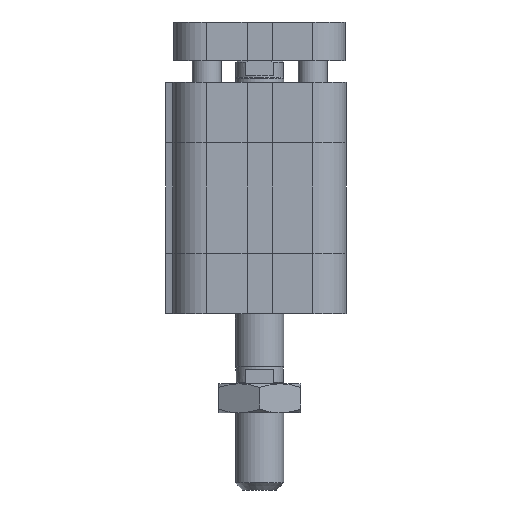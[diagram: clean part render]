
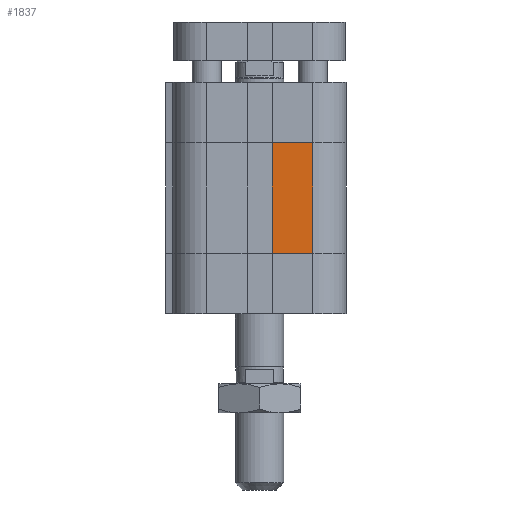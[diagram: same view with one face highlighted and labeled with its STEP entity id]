
A CAD part, left-side view. The second image highlights one B-rep face of the part: STEP entity #1837.
In plain terms, the highlighted planar face has unit normal (-1, 0, 0).
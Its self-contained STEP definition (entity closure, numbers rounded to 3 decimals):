
#1750=CARTESIAN_POINT('',(-18.0,-2.6,12.5));
#1751=VERTEX_POINT('',#1750);
#1758=CARTESIAN_POINT('',(-18.0,-2.6,35.5));
#1759=VERTEX_POINT('',#1758);
#1760=CARTESIAN_POINT('',(-18.0,-2.6,12.5));
#1761=DIRECTION('',(0.0,0.0,1.0));
#1762=VECTOR('',#1761,23.);
#1763=LINE('',#1760,#1762);
#1764=EDGE_CURVE('',#1751,#1759,#1763,.T.);
#1807=CARTESIAN_POINT('',(-18.,-11.0,0.0));
#1808=DIRECTION('',(-1.0,0.0,0.0));
#1809=DIRECTION('',(0.0,0.0,1.0));
#1810=AXIS2_PLACEMENT_3D('',#1807,#1808,#1809);
#1811=PLANE('',#1810);
#1812=CARTESIAN_POINT('',(-18.,-11.0,12.5));
#1813=VERTEX_POINT('',#1812);
#1814=CARTESIAN_POINT('',(-18.0,-2.6,12.5));
#1815=DIRECTION('',(0.0,-1.0,0.0));
#1816=VECTOR('',#1815,8.4);
#1817=LINE('',#1814,#1816);
#1818=EDGE_CURVE('',#1751,#1813,#1817,.T.);
#1819=ORIENTED_EDGE('',*,*,#1818,.T.);
#1820=CARTESIAN_POINT('',(-18.,-11.0,35.5));
#1821=VERTEX_POINT('',#1820);
#1822=CARTESIAN_POINT('',(-18.,-11.0,12.5));
#1823=DIRECTION('',(0.0,0.0,1.0));
#1824=VECTOR('',#1823,23.);
#1825=LINE('',#1822,#1824);
#1826=EDGE_CURVE('',#1813,#1821,#1825,.T.);
#1827=ORIENTED_EDGE('',*,*,#1826,.T.);
#1828=CARTESIAN_POINT('',(-18.0,-2.6,35.5));
#1829=DIRECTION('',(0.0,-1.0,0.0));
#1830=VECTOR('',#1829,8.4);
#1831=LINE('',#1828,#1830);
#1832=EDGE_CURVE('',#1759,#1821,#1831,.T.);
#1833=ORIENTED_EDGE('',*,*,#1832,.F.);
#1834=ORIENTED_EDGE('',*,*,#1764,.F.);
#1835=EDGE_LOOP('',(#1819,#1827,#1833,#1834));
#1836=FACE_OUTER_BOUND('',#1835,.T.);
#1837=ADVANCED_FACE('',(#1836),#1811,.T.);
